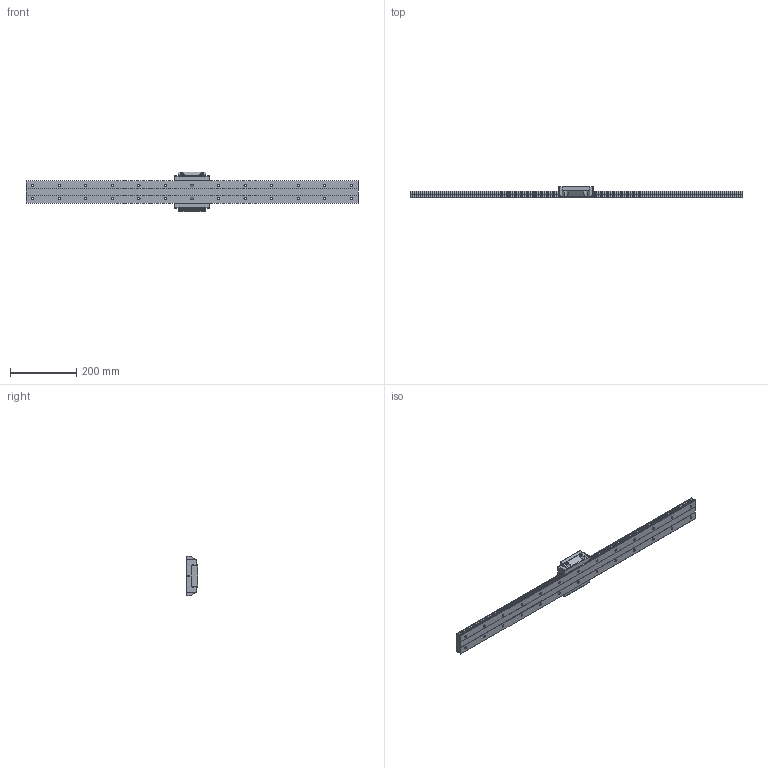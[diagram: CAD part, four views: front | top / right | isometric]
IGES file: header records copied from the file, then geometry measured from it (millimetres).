
Start section: Data from XPlus IGES,  Spatial Corp. Copyright (c) 1999-2004
Global section: file name: SHW35CA1UU1000200446.5000.igs; native system:  By Spatial Corp.; preprocessor: XPlus ACIS/IGES 3.0; author: Noname; organization: Noname; date: 20161110.134414; units: millimetre
Bounding box: 1000 x 35 x 120 mm (x, y, z)
Surface area: 234318.5 mm2 (no closed solid volume)
Topology: 0 solids, 0 shells, 346 faces, 1764 edges, 1760 vertices
Faces by surface type: revolution 194, extrusion 152
